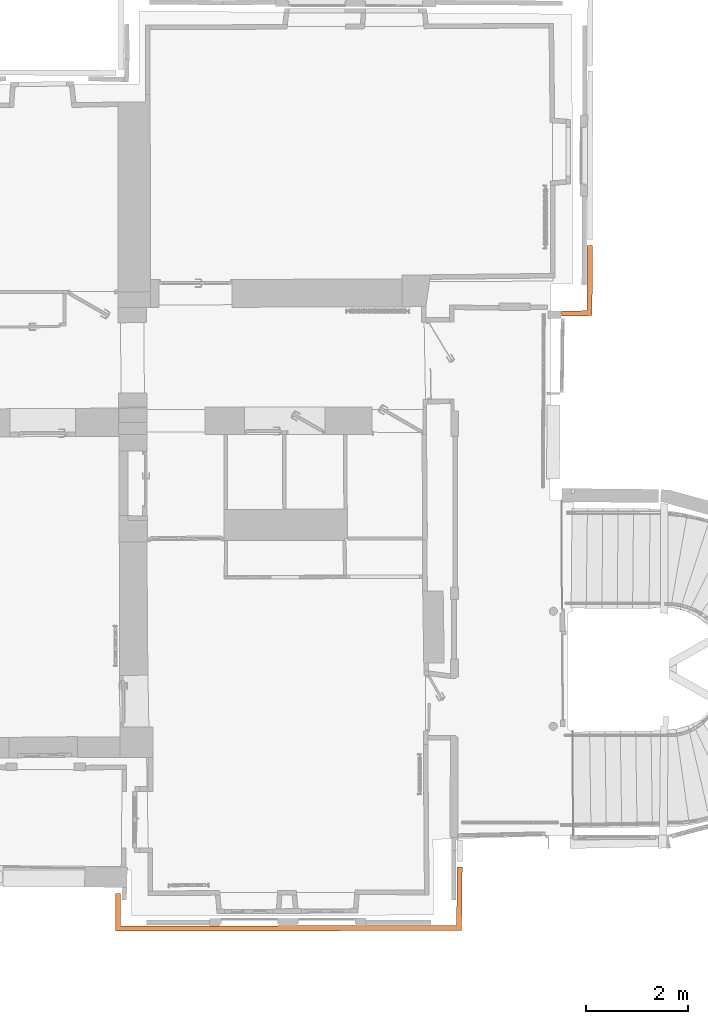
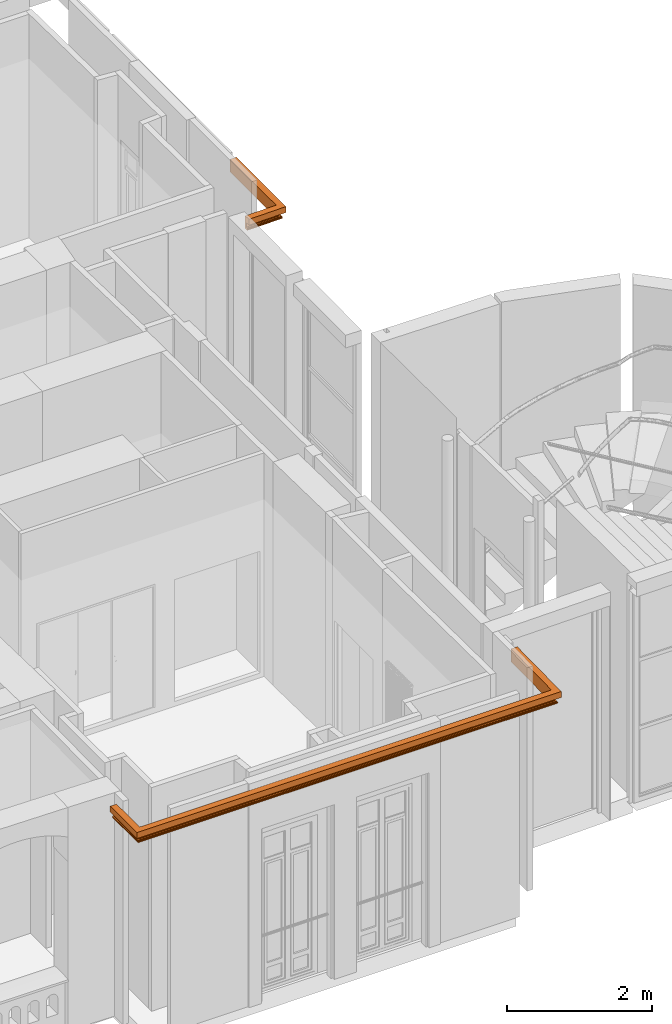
# One storey, part 64 of 66: 2 proxies.
"""IFC2X3 building model written with IfcOpenShell, lengths in centimetres."""

import ifcopenshell
import ifcopenshell.guid

model = None  # the IFC model being written
_history = None  # IfcOwnerHistory: only IFC2X3 demands one
_inside = {}  # id of a spatial element -> (the spatial element, [elements in it])
_under = {}  # id of a project, library or spatial element -> (it, [spatial elements below it])
_declared = {}  # id of a project -> (the project, [libraries it declares])
_typed = {}  # id of a type object -> (the type object, [elements of that type])
_made_of = {}  # id of a material, layer set ... -> (it, [elements and type objects made of it])


def new_model(schema):
    """Start an empty IFC model of exactly this schema.

    Asked for "IFC4X3", IfcOpenShell would pick the latest addendum, in which some entities
    have other attributes; the version numbers below select the first issue.
    IFC2X3 requires an IfcOwnerHistory on every rooted entity: one is made here for all.
    """
    global model, _history
    if schema == "IFC4X3":
        model = ifcopenshell.file(schema_version=(4, 3, 0, 0))
    else:
        model = ifcopenshell.file(schema=schema)
    _inside.clear()
    _under.clear()
    _declared.clear()
    _typed.clear()
    _made_of.clear()
    _history = None
    if model.schema == "IFC2X3":
        org = make("IfcOrganization", Name="unknown")
        user = make(
            "IfcPersonAndOrganization",
            ThePerson=make("IfcPerson", FamilyName="unknown"),
            TheOrganization=org,
        )
        app = make(
            "IfcApplication",
            ApplicationDeveloper=org,
            Version="unknown",
            ApplicationFullName="unknown",
            ApplicationIdentifier="unknown",
        )
        _history = make(
            "IfcOwnerHistory",
            OwningUser=user,
            OwningApplication=app,
            ChangeAction="ADDED",
            CreationDate=0,
        )
    return model


def make(cls, **values):
    """One entity of the class cls with the attributes given. An attribute that is None is left unset."""
    return model.create_entity(
        cls, **{name: value for name, value in values.items() if value is not None}
    )


def entity(cls, *values):
    """Any entity or typed value of the class cls, its attributes in the order of the schema. None: left unset."""
    e = model.create_entity(cls)
    for i, value in enumerate(values):
        if value is not None:
            e[i] = value
    return e


def rooted(cls, **values):
    """An entity with a GlobalId (a new one), such as an element, a storey or a relation."""
    return make(cls, GlobalId=ifcopenshell.guid.new(), OwnerHistory=_history, **values)


def si_unit(unit_type, name, prefix=None):
    """IfcSIUnit, for example si_unit("LENGTHUNIT", "METRE", prefix="MILLI")."""
    return make("IfcSIUnit", UnitType=unit_type, Prefix=prefix, Name=name)


def converted_unit(unit_type, name, factor, base, dimensions=None, offset=None):
    """IfcConversionBasedUnit, such as the inch: factor (a typed value) times the base unit."""
    return make(
        "IfcConversionBasedUnit"
        if offset is None
        else "IfcConversionBasedUnitWithOffset",
        ConversionOffset=offset,
        Dimensions=None
        if dimensions is None
        else entity("IfcDimensionalExponents", *dimensions),
        UnitType=unit_type,
        Name=name,
        ConversionFactor=make(
            "IfcMeasureWithUnit", ValueComponent=factor, UnitComponent=base
        ),
    )


def assignment(units):
    """IfcUnitAssignment: the units of a project."""
    return None if units is None else make("IfcUnitAssignment", Units=units)


def point(xyz):
    """IfcCartesianPoint."""
    return None if xyz is None else make("IfcCartesianPoint", Coordinates=xyz)


def direction(xyz):
    """IfcDirection."""
    return None if xyz is None else make("IfcDirection", DirectionRatios=xyz)


def frame(location, z_axis=None, x_axis=None):
    """IfcAxis2Placement3D, a coordinate frame: its origin and axes. An axis left out is left unset."""
    return make(
        "IfcAxis2Placement3D",
        Location=point(location),
        Axis=direction(z_axis),
        RefDirection=direction(x_axis),
    )


def origin():
    """The frame at (0, 0, 0) with its axes left unset."""
    return frame((0.0, 0.0, 0.0))


def origin_with_axes():
    """The frame at (0, 0, 0) with the z axis (0, 0, 1) and the x axis (1, 0, 0) written out."""
    return frame((0.0, 0.0, 0.0), z_axis=(0.0, 0.0, 1.0), x_axis=(1.0, 0.0, 0.0))


def place(relative_to, where):
    """IfcLocalPlacement: puts the frame where relative to a parent placement (None: the world)."""
    return make(
        "IfcLocalPlacement", PlacementRelTo=relative_to, RelativePlacement=where
    )


def context(
    kind, dimensions, precision=None, world=None, true_north=None, identifier=None
):
    """IfcGeometricRepresentationContext, for example the 3D "Model" context."""
    return make(
        "IfcGeometricRepresentationContext",
        ContextIdentifier=identifier,
        ContextType=kind,
        CoordinateSpaceDimension=dimensions,
        Precision=precision,
        WorldCoordinateSystem=world,
        TrueNorth=true_north,
    )


def subcontext(parent, identifier, kind, view, scale=None):
    """IfcGeometricRepresentationSubContext, for example "Body" below "Model"."""
    return make(
        "IfcGeometricRepresentationSubContext",
        ContextIdentifier=identifier,
        ContextType=kind,
        ParentContext=parent,
        TargetScale=scale,
        TargetView=view,
    )


def project(units=None, contexts=None):
    """IfcProject with its units and contexts."""
    return rooted(
        "IfcProject",
        Name="project",
        RepresentationContexts=contexts,
        UnitsInContext=assignment(units),
    )


def spatial(cls, under=None, at=None, **own):
    """A site, building, storey or space (cls), placed at a placement, below another one or the project."""
    s = rooted(cls, ObjectPlacement=at, **own)
    if under is not None:
        _under.setdefault(under.id(), (under, []))[1].append(s)
    return s


def faces_of(points, faces, orient=None, outer=None):
    """IfcFace entities. A face is a list of loops; a loop is a list of indices into points, from 0.

    orient and outer hold one flag for each loop. By default every Orientation is true, the
    first loop of a face is its IfcFaceOuterBound and the others are IfcFaceBound.
    """
    made = []
    for i, loops in enumerate(faces):
        bounds = []
        for j, loop in enumerate(loops):
            is_outer = j == 0 if outer is None else outer[i][j]
            bounds.append(
                make(
                    "IfcFaceOuterBound" if is_outer else "IfcFaceBound",
                    Bound=make("IfcPolyLoop", Polygon=[points[k] for k in loop]),
                    Orientation=True if orient is None else orient[i][j],
                )
            )
        made.append(make("IfcFace", Bounds=bounds))
    return made


def faceted_brep(points, faces, orient=None, outer=None, voids=None):
    """IfcFacetedBrep: a solid bounded by flat faces; with voids (closed shells), ...WithVoids."""
    shared = [point(p) for p in points]
    hull = make("IfcClosedShell", CfsFaces=faces_of(shared, faces, orient, outer))
    if voids is None:
        return make("IfcFacetedBrep", Outer=hull)
    return make(
        "IfcFacetedBrepWithVoids",
        Outer=hull,
        Voids=[
            make(cls, CfsFaces=faces_of(shared, fs, o, b)) for cls, fs, o, b in voids
        ],
    )


def shape(context_of_items, identifier, shape_type, items):
    """IfcShapeRepresentation: the items that make up one representation, for example the "Body"."""
    return make(
        "IfcShapeRepresentation",
        ContextOfItems=context_of_items,
        RepresentationIdentifier=identifier,
        RepresentationType=shape_type,
        Items=items,
    )


def material(Name=None, Category=None):
    """IfcMaterial."""
    return make("IfcMaterial", Name=Name, Category=Category)


def made_of(thing, what):
    """Note that an element or type object is made of a material, layer set ...; save() writes the relation."""
    if what is not None:
        _made_of.setdefault(what.id(), (what, []))[1].append(thing)
    return thing


def type_object(cls, material=None, **own):
    """A type object (cls), such as IfcWallType, which elements share."""
    return made_of(rooted(cls, **own), material)


def element(
    cls,
    number,
    at=None,
    inside=None,
    cuts=None,
    type_object=None,
    material=None,
    context=None,
    identifier="Body",
    shape_type=None,
    held_by="IfcProductDefinitionShape",
    body=None,
    shapes=None,
    **own,
):
    """One element of the class cls, such as IfcWall. Its Tag is "e" and its number.

    at: its placement. inside: the storey or other place that contains it. cuts: it is an
    opening in that element (IfcRelVoidsElement). A single representation is given by context,
    identifier, shape_type and body (its items); several are given by shapes. held_by: the class
    of the entity that holds the representations. save() writes the other relations.
    """
    e = rooted(cls, Tag="e%d" % number, ObjectPlacement=at, **own)
    if body is not None:
        shapes = [shape(context, identifier, shape_type, body)]
    if shapes is not None:
        e.Representation = make(held_by, Representations=shapes)
    if inside is not None:
        _inside.setdefault(inside.id(), (inside, []))[1].append(e)
    if cuts is not None:
        rooted(
            "IfcRelVoidsElement", RelatingBuildingElement=cuts, RelatedOpeningElement=e
        )
    if type_object is not None:
        _typed.setdefault(type_object.id(), (type_object, []))[1].append(e)
    return made_of(e, material)


def aggregate(whole, parts):
    """IfcRelAggregates: a whole, such as a stair, and the parts it consists of."""
    return rooted("IfcRelAggregates", RelatingObject=whole, RelatedObjects=parts)


def save(model, path):
    """Write the relations noted so far, then the file.

    IfcRelAggregates (storeys below a building ...), IfcRelContainedInSpatialStructure (elements
    in a storey), IfcRelDefinesByType, IfcRelAssociatesMaterial and IfcRelDeclares: one each for
    every whole, place, type object, material and project.
    """
    for whole, parts in _under.values():
        aggregate(whole, parts)
    for where, things in _inside.values():
        rooted(
            "IfcRelContainedInSpatialStructure",
            RelatedElements=things,
            RelatingStructure=where,
        )
    for kind, things in _typed.values():
        rooted("IfcRelDefinesByType", RelatedObjects=things, RelatingType=kind)
    for what, things in _made_of.values():
        rooted("IfcRelAssociatesMaterial", RelatedObjects=things, RelatingMaterial=what)
    for by, libraries in _declared.values():
        rooted("IfcRelDeclares", RelatingContext=by, RelatedDefinitions=libraries)
    model.write(path)


model = new_model("IFC2X3")

# Units and contexts
model_context = context("Model", 3, precision=0.0001, world=origin(), true_north=direction((0.225632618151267, 0.974212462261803, 0.0)))
body_context = subcontext(model_context, "Body", "Model", "MODEL_VIEW")
ifc_project = project(units=[si_unit("LENGTHUNIT", "METRE", prefix="CENTI"), si_unit("AREAUNIT", "SQUARE_METRE", prefix="CENTI"), si_unit("VOLUMEUNIT", "CUBIC_METRE", prefix="CENTI"), converted_unit("PLANEANGLEUNIT", "DEGREE", entity("IfcRatioMeasure", 0.0174532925), si_unit("PLANEANGLEUNIT", "RADIAN"), dimensions=[0, 0, 0, 0, 0, 0, 0])], contexts=[model_context])

# Site, building, storey
site_placement = place(None, origin_with_axes())
site = spatial("IfcSite", under=ifc_project, at=site_placement, Name="Default Site", CompositionType="ELEMENT")
building_placement = place(site_placement, origin_with_axes())
building = spatial("IfcBuilding", under=site, at=building_placement, Name="Default Building", CompositionType="ELEMENT")
storey_placement = place(building_placement, frame((0.0, 0.0, 477.795358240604), z_axis=(0.0, 0.0, 1.0), x_axis=(1.0, 0.0, 0.0)))
storey = spatial("IfcBuildingStorey", under=building, at=storey_placement, Name="Niveau 1", CompositionType="ELEMENT", Elevation=477.795358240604)

# Proxies
ifc_material = material(Name="Aluminium mat")
building_element_proxy_type = type_object("IfcBuildingElementProxyType", Name="Corniche niv1", PredefinedType="NOTDEFINED", material=ifc_material)
proxy_1_placement = place(storey_placement, origin_with_axes())
element("IfcBuildingElementProxy", 1, at=proxy_1_placement, inside=storey, type_object=building_element_proxy_type, material=ifc_material, Name="Extrusion (solide) 449943", context=body_context, shape_type="Brep", body=[
    faceted_brep([(894.890117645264, -1048.74534606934, 365.000013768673), (904.765224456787, -1058.71324539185, 365.000013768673), (906.15234375, -934.966087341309, 365.000013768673), (896.166801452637, -934.854125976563, 365.000013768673), (904.765224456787, -1058.71324539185, 354.999975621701), (906.152369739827, -934.966087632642, 354.999975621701), (906.152369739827, -934.966087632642, 365.000013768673), (897.856712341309, -1051.73978805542, 354.999975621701), (899.166584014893, -934.887790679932, 354.999975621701), (906.15234375, -934.966087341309, 354.999975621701), (897.856712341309, -1051.73978805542, 347.699980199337), (899.16656624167, -934.887790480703, 347.699980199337), (899.16656624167, -934.887790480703, 354.999975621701), (900.297737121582, -1054.20379638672, 347.699980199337), (901.634979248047, -934.915447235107, 347.699980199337), (899.166584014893, -934.887790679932, 347.699980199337), (900.65028189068, -1054.55961195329, 347.4755351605), (901.991353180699, -934.919452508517, 347.475558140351), (901.634957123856, -934.915446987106, 347.699945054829), (900.650310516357, -1054.55961227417, 347.475580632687), (900.956351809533, -1054.86860283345, 347.189962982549), (902.300913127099, -934.922885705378, 347.189936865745), (901.991390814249, -934.91945293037, 347.475606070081), (900.956344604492, -1054.86860275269, 347.189955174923), (901.205827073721, -1055.12037278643, 346.852546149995), (902.553160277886, -934.925746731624, 346.852532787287), (902.300896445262, -934.922885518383, 347.18993006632), (901.205825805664, -1055.12037277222, 346.852545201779), (901.390214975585, -1055.30652942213, 346.474864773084), (902.739594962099, -934.927844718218, 346.474877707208), (902.553154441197, -934.925746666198, 346.852534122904), (901.390266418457, -1055.30652999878, 346.474890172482), (901.503442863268, -1055.42078097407, 346.069503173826), (902.85409873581, -934.929085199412, 346.069493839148), (902.739650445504, -934.92784534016, 346.474898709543), (901.503372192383, -1055.42078018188, 346.069483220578), (901.541521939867, -1055.45921328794, 345.650057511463), (902.89260045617, -934.929561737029, 345.650058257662), (902.85402561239, -934.929084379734, 346.069479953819), (901.541519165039, -1055.45921325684, 345.650057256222), (901.503360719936, -1055.42078005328, 345.23053697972), (902.854014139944, -934.929084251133, 345.230540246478), (902.892597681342, -934.929561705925, 345.650056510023), (901.503372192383, -1055.42078018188, 345.230535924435), (901.390195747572, -1055.30652920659, 344.825148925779), (902.739579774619, -934.927844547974, 344.825140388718), (902.854028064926, -934.929084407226, 345.230545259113), (901.390266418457, -1055.30652999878, 344.825128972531), (901.205877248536, -1055.12037334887, 344.447448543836), (902.553205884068, -934.925747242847, 344.44745962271), (902.739646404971, -934.927845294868, 344.825116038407), (901.205825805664, -1055.12037277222, 344.447473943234), (900.956389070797, -1054.86860325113, 344.110126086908), (902.300940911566, -934.922886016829, 344.110151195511), (902.553159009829, -934.92574671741, 344.447487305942), (900.956344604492, -1054.86860275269, 344.110159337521), (900.650255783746, -1054.55961166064, 343.824497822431), (901.991336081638, -934.919452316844, 343.824472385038), (902.300905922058, -934.922885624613, 344.110185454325), (900.650310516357, -1054.55961227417, 343.824438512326), (900.297765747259, -1054.2037967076, 343.599993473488), (901.634985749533, -934.915447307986, 343.600028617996), (901.991381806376, -934.919452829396, 343.824415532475), (900.297737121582, -1054.20379638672, 343.600038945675), (894.890117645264, -1048.74534606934, 343.600038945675), (896.166801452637, -934.854125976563, 343.600038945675), (901.634979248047, -934.915447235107, 343.600038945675), (896.166782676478, -934.854125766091, 365.000013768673), (896.166782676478, -934.854125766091, 343.600038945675), (238.890624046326, -1049.96137619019, 365.000013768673), (228.922939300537, -1059.96608734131, 365.000013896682), (904.765224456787, -1058.71324539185, 365.000009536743), (894.890117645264, -1048.74534606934, 365.000009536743), (228.922939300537, -1059.96608734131, 365.000013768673), (228.922939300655, -1059.96608740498, 354.999975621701), (904.76522452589, -1058.7132826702, 354.999975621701), (904.765224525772, -1058.71328260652, 365.000013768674), (228.922939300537, -1059.96608734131, 354.999975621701), (235.8962059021, -1052.96688079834, 354.999975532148), (897.856712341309, -1051.73978805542, 354.999971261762), (904.765224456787, -1058.71324539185, 354.999971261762), (235.8962059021, -1052.96688079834, 354.999975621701), (235.896205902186, -1052.96688084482, 347.699980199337), (897.856712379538, -1051.7398086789, 347.699980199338), (897.856712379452, -1051.73980863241, 354.999975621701), (235.8962059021, -1052.96688079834, 347.699980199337), (233.432292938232, -1055.43994903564, 347.69998023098), (900.297737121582, -1054.20379638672, 347.699975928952), (897.856712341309, -1051.73978805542, 347.699975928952), (233.432292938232, -1055.43994903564, 347.699980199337), (233.076477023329, -1055.79708525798, 347.475557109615), (900.650310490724, -1054.5595984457, 347.475558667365), (900.297737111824, -1054.20379112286, 347.699971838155), (233.076477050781, -1055.79710006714, 347.475580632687), (232.767510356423, -1056.10720382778, 347.189921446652), (900.956344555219, -1054.86857617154, 347.189926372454), (900.650310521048, -1054.55961480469, 347.475583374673), (232.767510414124, -1056.10723495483, 347.189955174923), (232.515716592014, -1056.35997983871, 346.852561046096), (901.205825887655, -1055.12041700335, 346.852578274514), (900.95634461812, -1054.86861010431, 347.189960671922), (232.515716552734, -1056.35995864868, 346.852545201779), (232.329606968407, -1056.54676107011, 346.474879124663), (901.390266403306, -1055.30652182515, 346.474886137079), (901.205825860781, -1055.12040250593, 346.852559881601), (232.329607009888, -1056.54678344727, 346.474890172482), (232.215356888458, -1056.66144837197, 346.069492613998), (901.503372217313, -1055.42079363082, 346.069487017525), (901.390266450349, -1055.30654720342, 346.474895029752), (232.215356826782, -1056.6614151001, 346.069483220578), (232.176852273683, -1056.70006449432, 345.650059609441), (901.541519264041, -1055.45926666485, 345.650062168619), (901.503372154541, -1055.42075976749, 346.069481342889), (232.176852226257, -1056.70003890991, 345.650057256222), (232.215356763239, -1056.6613808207, 345.230539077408), (901.503372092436, -1055.42072626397, 345.230540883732), (901.541519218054, -1055.45924185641, 345.650054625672), (232.215356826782, -1056.6614151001, 345.230535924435), (232.329606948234, -1056.54675018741, 344.82513836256), (901.390266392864, -1055.30651619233, 344.825132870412), (901.503372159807, -1055.42076260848, 345.230540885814), (232.329607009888, -1056.54678344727, 344.825128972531), (232.515716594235, -1056.35998103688, 344.447462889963), (901.205825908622, -1055.12042831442, 344.447446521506), (901.39026645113, -1055.30654762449, 344.825120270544), (232.515716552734, -1056.35995864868, 344.447473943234), (232.767510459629, -1056.10725950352, 344.11014098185), (900.956344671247, -1054.86863876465, 344.110132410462), (901.205825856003, -1055.12039992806, 344.44745363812), (232.767510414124, -1056.10723495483, 344.110159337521), (233.076477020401, -1055.79708367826, 343.824456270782), (900.650310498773, -1054.5596027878, 343.82444879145), (900.956344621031, -1054.86861167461, 344.110149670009), (233.076477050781, -1055.79710006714, 343.824438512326), (233.432292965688, -1055.43996384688, 343.600015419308), (900.297737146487, -1054.20380982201, 343.600017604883), (900.65031052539, -1054.55961714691, 343.824430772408), (233.432292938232, -1055.43994903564, 343.600038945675), (238.890624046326, -1049.96137619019, 343.600038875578), (894.890117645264, -1048.74534606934, 343.600034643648), (900.297737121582, -1054.20379638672, 343.600034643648), (238.890624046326, -1049.96137619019, 343.600038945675), (238.890624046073, -1049.96137605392, 365.000013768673), (894.890117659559, -1048.7453537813, 365.000013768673), (894.890117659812, -1048.74535391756, 343.600038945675), (238.772630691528, -986.310005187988, 365.000013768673), (228.786444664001, -986.328506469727, 365.000013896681), (228.922939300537, -1059.96608734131, 365.000013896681), (228.786444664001, -986.328506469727, 365.000013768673), (228.786444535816, -986.328506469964, 354.999975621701), (228.922946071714, -1059.96608732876, 354.999975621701), (228.922946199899, -1059.96608732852, 365.000013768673), (228.786444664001, -986.328506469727, 354.999975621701), (235.772633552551, -986.315536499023, 354.999975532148), (235.772633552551, -986.315536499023, 354.999975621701), (235.772633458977, -986.315536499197, 347.699980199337), (235.896184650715, -1052.96688083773, 347.699980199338), (235.89618474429, -1052.96688083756, 354.999975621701), (235.772633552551, -986.315536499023, 347.699980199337), (233.304166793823, -986.320114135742, 347.699980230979), (233.304166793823, -986.320114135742, 347.699980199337), (232.947713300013, -986.320781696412, 347.475570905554), (233.076488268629, -1055.79710004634, 347.475562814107), (233.43229318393, -1055.43994903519, 347.699979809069), (232.947707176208, -986.320781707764, 347.475580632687), (232.638176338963, -986.321353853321, 347.18992066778), (232.767540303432, -1056.10723489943, 347.189922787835), (233.076485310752, -1055.79710005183, 347.47557168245), (232.638144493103, -986.321353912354, 347.189955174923), (232.385870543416, -986.321830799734, 346.852565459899), (232.515696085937, -1056.35995868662, 346.852560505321), (232.767507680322, -1056.1072349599, 347.189957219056), (232.385897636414, -986.321830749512, 346.852545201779), (232.199443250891, -986.322212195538, 346.474883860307), (232.329618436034, -1056.54678342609, 346.474884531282), (232.515724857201, -1056.35995863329, 346.852541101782), (232.199430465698, -986.322212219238, 346.474890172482), (232.084974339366, -986.322402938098, 346.069480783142), (232.215361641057, -1056.66141509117, 346.069481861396), (232.329605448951, -1056.54678345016, 346.474890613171), (232.084965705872, -986.322402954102, 346.069483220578), (232.046387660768, -986.322498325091, 345.65005743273), (232.17684611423, -1056.70003892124, 345.650057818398), (232.215352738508, -1056.66141510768, 346.069483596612), (232.046389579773, -986.322498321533, 345.650057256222), (232.08497631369, -986.322402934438, 345.230536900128), (232.215363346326, -1056.66141508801, 345.230536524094), (232.176848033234, -1056.70003891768, 345.650056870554), (232.084965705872, -986.322402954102, 345.230535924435), (232.199421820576, -986.322212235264, 344.825126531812), (232.329596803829, -1056.54678346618, 344.825126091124), (232.215353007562, -1056.66141510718, 345.230534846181), (232.199430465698, -986.322212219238, 344.825128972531), (232.385884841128, -986.32183077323, 344.447467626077), (232.515712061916, -1056.35995865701, 344.447471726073), (232.329605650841, -1056.54678344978, 344.825128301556), (232.385897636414, -986.321830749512, 344.447473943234), (232.638125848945, -986.321353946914, 344.110145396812), (232.767489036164, -1056.10723499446, 344.110143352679), (232.515723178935, -1056.3599586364, 344.447478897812), (232.638144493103, -986.321353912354, 344.110159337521), (232.947722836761, -986.320781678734, 343.824455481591), (233.0765009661, -1055.79710002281, 343.824464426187), (232.767508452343, -1056.10723495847, 344.1101572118), (232.947707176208, -986.320781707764, 343.824438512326), (233.304160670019, -986.320114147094, 343.600029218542), (233.432287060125, -1055.43994904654, 343.600029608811), (233.076482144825, -1055.7971000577, 343.824446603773), (233.304166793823, -986.320114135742, 343.600038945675), (238.772630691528, -986.310005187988, 343.600038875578), (238.772630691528, -986.310005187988, 343.600038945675), (238.772630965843, -986.31000518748, 365.000013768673), (238.89062112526, -1049.9613761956, 365.000013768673), (238.890620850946, -1049.96137619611, 343.600038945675), (906.152344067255, -934.966059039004, 365.000013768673), (906.152344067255, -934.966059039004, 354.999975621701), (899.16658444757, -934.887752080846, 354.999975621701), (899.16658444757, -934.887752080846, 347.699980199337), (901.634979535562, -934.915421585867, 347.699980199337), (901.991367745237, -934.919416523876, 347.475580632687), (902.30093001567, -934.922886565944, 347.189955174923), (902.553177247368, -934.925714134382, 346.852545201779), (902.739620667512, -934.927804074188, 346.474890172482), (902.854061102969, -934.929086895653, 346.069483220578), (902.89259004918, -934.929518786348, 345.650057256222), (902.854061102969, -934.929086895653, 345.230535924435), (902.739620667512, -934.927804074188, 344.825128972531), (902.553177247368, -934.925714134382, 344.447473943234), (902.30093001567, -934.922886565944, 344.110159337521), (901.991367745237, -934.919416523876, 343.824438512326), (901.634979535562, -934.915421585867, 343.600038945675), (233.304166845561, -986.32014204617, 343.600038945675), (232.947707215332, -986.320802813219, 343.824438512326), (232.638144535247, -986.321376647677, 344.110159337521), (232.385897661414, -986.321844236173, 344.447473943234), (232.199430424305, -986.322189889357, 344.825128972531), (232.084965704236, -986.322402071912, 345.230535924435), (232.04638953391, -986.322473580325, 345.650057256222), (232.084965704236, -986.322402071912, 346.069483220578), (232.199430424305, -986.322189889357, 346.474890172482), (232.385897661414, -986.321844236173, 346.852545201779), (232.638144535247, -986.321376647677, 347.189955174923), (232.947707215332, -986.320802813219, 347.475580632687), (233.304166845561, -986.32014204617, 347.699980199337), (235.772633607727, -986.315566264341, 347.699980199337), (235.772633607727, -986.315566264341, 354.999975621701), (228.786444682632, -986.328516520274, 354.999975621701), (228.786444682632, -986.328516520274, 365.000013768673)], [[[0, 1, 2, 3]], [[1, 4, 5, 6]], [[4, 7, 8, 9]], [[7, 10, 11, 12]], [[10, 13, 14, 15]], [[13, 16, 17, 18]], [[19, 20, 21, 22]], [[23, 24, 25, 26]], [[27, 28, 29, 30]], [[31, 32, 33, 34]], [[35, 36, 37, 38]], [[39, 40, 41, 42]], [[43, 44, 45, 46]], [[47, 48, 49, 50]], [[51, 52, 53, 54]], [[55, 56, 57, 58]], [[59, 60, 61, 62]], [[63, 64, 65, 66]], [[64, 0, 67, 68]], [[69, 70, 71, 72]], [[73, 74, 75, 76]], [[77, 78, 79, 80]], [[81, 82, 83, 84]], [[85, 86, 87, 88]], [[89, 90, 91, 92]], [[93, 94, 95, 96]], [[97, 98, 99, 100]], [[101, 102, 103, 104]], [[105, 106, 107, 108]], [[109, 110, 111, 112]], [[113, 114, 115, 116]], [[117, 118, 119, 120]], [[121, 122, 123, 124]], [[125, 126, 127, 128]], [[129, 130, 131, 132]], [[133, 134, 135, 136]], [[137, 138, 139, 140]], [[141, 142, 143, 144]], [[145, 146, 147, 69]], [[148, 149, 150, 151]], [[152, 153, 78, 77]], [[154, 155, 156, 157]], [[158, 159, 86, 85]], [[160, 161, 162, 163]], [[164, 165, 166, 167]], [[168, 169, 170, 171]], [[172, 173, 174, 175]], [[176, 177, 178, 179]], [[180, 181, 182, 183]], [[184, 185, 186, 187]], [[188, 189, 190, 191]], [[192, 193, 194, 195]], [[196, 197, 198, 199]], [[200, 201, 202, 203]], [[204, 205, 206, 207]], [[208, 209, 138, 137]], [[210, 211, 212, 213]], [[3, 214, 215, 216, 217, 218, 219, 220, 221, 222, 223, 224, 225, 226, 227, 228, 229, 230, 65]], [[210, 231, 232, 233, 234, 235, 236, 237, 238, 239, 240, 241, 242, 243, 244, 245, 246, 247, 145]]]),
])
proxy_2_placement = place(storey_placement, origin_with_axes())
element("IfcBuildingElementProxy", 2, at=proxy_2_placement, inside=storey, type_object=building_element_proxy_type, material=ifc_material, Name="Extrusion (solide) 449953", context=body_context, shape_type="Brep", body=[
    faceted_brep([(1149.84350204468, 151.600062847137, 363.604597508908), (1159.81693267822, 141.796720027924, 363.604597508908), (1159.99612808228, 278.887867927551, 363.604597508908), (1150.00991821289, 278.900933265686, 363.604597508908), (1159.81693267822, 141.796720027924, 353.604654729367), (1159.9961351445, 278.88786791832, 353.604654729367), (1159.9961351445, 278.88786791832, 363.604597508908), (1152.83966064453, 148.654997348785, 353.604654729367), (1153.00989151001, 278.897023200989, 353.604654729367), (1159.99612808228, 278.887867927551, 353.604654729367), (1152.83966064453, 148.654997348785, 346.304659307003), (1153.00991009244, 278.897023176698, 346.304659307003), (1153.00991009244, 278.897023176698, 353.604654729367), (1155.30500411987, 146.231722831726, 346.304659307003), (1155.4783821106, 278.893780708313, 346.304659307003), (1153.00989151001, 278.897023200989, 346.304659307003), (1155.66100361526, 145.881772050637, 346.080248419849), (1155.83486266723, 278.893327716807, 346.08025512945), (1155.47839200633, 278.893780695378, 346.304675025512), (1155.66101074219, 145.881772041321, 346.080259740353), (1155.97020074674, 145.577895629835, 345.794548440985), (1156.14445089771, 278.892922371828, 345.794563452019), (1155.83487242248, 278.893327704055, 346.080267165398), (1155.97019195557, 145.577895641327, 345.794538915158), (1156.22207617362, 145.330262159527, 345.457238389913), (1156.39667592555, 278.892588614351, 345.457224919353), (1156.14444757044, 278.892922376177, 345.794553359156), (1156.22205734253, 145.330262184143, 345.457224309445), (1156.40831556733, 145.147204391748, 345.079476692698), (1156.58314026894, 278.892350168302, 345.079484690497), (1156.39665252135, 278.892588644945, 345.457213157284), (1156.40830993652, 145.147204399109, 345.079473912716), (1156.52262146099, 145.034849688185, 344.674057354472), (1156.69759148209, 278.892183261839, 344.674076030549), (1156.583137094, 278.892350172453, 345.079479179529), (1156.52265548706, 145.034849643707, 344.674066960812), (1156.56118417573, 144.996976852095, 344.254641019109), (1156.73620870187, 278.892135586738, 344.254643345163), (1156.69763018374, 278.892183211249, 344.674073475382), (1156.56118392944, 144.996976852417, 344.254640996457), (1156.52265524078, 145.034849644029, 343.835215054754), (1156.69762993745, 278.892183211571, 343.835208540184), (1156.73620845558, 278.89213558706, 344.254638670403), (1156.52265548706, 145.034849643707, 343.835215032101), (1156.40834396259, 145.147204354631, 343.429798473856), (1156.58317112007, 278.892350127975, 343.429793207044), (1156.69762550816, 278.892183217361, 343.835196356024), (1156.40830993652, 145.147204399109, 343.429808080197), (1156.22205171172, 145.330262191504, 343.05206046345), (1156.39664689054, 278.892588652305, 343.052071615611), (1156.58313463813, 278.892350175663, 343.429800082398), (1156.22205734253, 145.330262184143, 343.052057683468), (1155.97017312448, 145.577895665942, 342.714757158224), (1156.14442873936, 278.892922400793, 342.714742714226), (1156.39665709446, 278.892588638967, 343.052071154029), (1155.97019195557, 145.577895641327, 342.714743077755), (1155.66100195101, 145.881772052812, 342.429031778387), (1155.8348636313, 278.893327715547, 342.429024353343), (1156.14444210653, 278.892922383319, 342.714728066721), (1155.66101074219, 145.881772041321, 342.42902225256), (1155.3050112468, 146.23172282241, 342.204611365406), (1155.47839913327, 278.893780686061, 342.204595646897), (1155.83486979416, 278.893327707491, 342.429015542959), (1155.30500411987, 146.231722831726, 342.20462268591), (1149.84350204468, 151.600062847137, 342.204622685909), (1150.00991821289, 278.900933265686, 342.204622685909), (1155.4783821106, 278.893780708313, 342.204622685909), (1150.00990688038, 278.9009332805, 363.604597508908), (1150.00990688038, 278.9009332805, 342.20462268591), (1100.10538101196, 150.679564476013, 363.604692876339), (1100.29020309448, 140.695059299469, 363.604693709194), (1159.81693267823, 141.796720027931, 363.604688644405), (1149.84350204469, 151.600062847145, 363.604688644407), (1100.29020309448, 140.695059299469, 363.604692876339), (1100.29020310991, 140.695058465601, 353.604654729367), (1159.81693269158, 141.796719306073, 353.604654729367), (1159.81693267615, 141.796720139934, 363.604597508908), (1100.29020309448, 140.695059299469, 353.604654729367), (1100.16088485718, 147.680079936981, 353.604654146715), (1152.83966064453, 148.654997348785, 353.604649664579), (1159.81693267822, 141.796720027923, 353.604649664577), (1100.16088485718, 147.680079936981, 353.604654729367), (1100.16088486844, 147.68007932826, 346.304659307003), (1152.83966050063, 148.655005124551, 346.304659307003), (1152.83966048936, 148.655005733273, 353.604654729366), (1100.16088485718, 147.680079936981, 346.304659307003), (1100.20656585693, 145.212018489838, 346.304659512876), (1155.30500411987, 146.231722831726, 346.304654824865), (1152.83966064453, 148.654997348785, 346.304654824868), (1100.20656585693, 145.212018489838, 346.304659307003), (1100.21324138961, 144.855616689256, 346.080243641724), (1155.66101048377, 145.881786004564, 346.080237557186), (1155.30500406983, 146.231725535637, 346.304655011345), (1100.21324157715, 144.855606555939, 346.080259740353), (1100.21896397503, 144.5460844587, 345.794559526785), (1155.97019230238, 145.577876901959, 345.794559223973), (1155.66101064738, 145.881777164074, 346.080254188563), (1100.21896362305, 144.546103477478, 345.794538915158), (1100.22363634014, 144.29391981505, 345.457212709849), (1156.22205695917, 145.330282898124, 345.457208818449), (1155.97019196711, 145.577895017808, 345.794539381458), (1100.2236366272, 144.293904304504, 345.457224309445), (1100.22707020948, 144.107441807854, 345.079483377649), (1156.40831021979, 145.147189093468, 345.079481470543), (1156.22205723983, 145.330267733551, 345.457221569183), (1100.22706985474, 144.107460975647, 345.079473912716), (1100.22916806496, 143.993025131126, 344.674068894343), (1156.52265549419, 145.034849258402, 344.674067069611), (1156.40830987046, 145.147207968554, 345.079472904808), (1100.22916793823, 143.993031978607, 344.674066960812), (1100.22983544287, 143.954459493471, 344.254640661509), (1156.56118380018, 144.99698383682, 344.254640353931), (1156.52265537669, 145.034855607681, 344.67406641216), (1100.22983551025, 143.954455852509, 344.254640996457), (1100.22916800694, 143.993028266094, 343.835214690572), (1156.52265546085, 145.034851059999, 343.835215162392), (1156.56118388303, 144.996979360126, 344.254641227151), (1100.22916793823, 143.993031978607, 343.835215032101), (1100.22706972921, 144.107467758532, 343.429809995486), (1156.40830979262, 145.14721217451, 343.429810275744), (1156.52265541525, 145.034853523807, 343.835216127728), (1100.22706985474, 144.107460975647, 343.429808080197), (1100.22363627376, 144.293923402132, 343.052067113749), (1156.22205695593, 145.330283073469, 343.052067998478), (1156.40830993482, 145.147204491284, 343.429808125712), (1100.2236366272, 144.293904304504, 343.052057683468), (1100.21896391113, 144.546087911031, 342.714731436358), (1155.97019233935, 145.577874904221, 342.714727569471), (1156.22205733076, 145.330262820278, 343.052058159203), (1100.21896362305, 144.546103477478, 342.714743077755), (1100.21324122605, 144.85562552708, 342.429042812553), (1155.66101038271, 145.881791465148, 342.429043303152), (1155.9701920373, 145.57789122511, 342.714738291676), (1100.21324157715, 144.855606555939, 342.42902225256), (1100.20656604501, 145.212008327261, 342.204606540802), (1155.30500433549, 146.231711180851, 342.204604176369), (1155.66101074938, 145.881771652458, 342.429021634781), (1100.20656585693, 145.212018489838, 342.20462268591), (1100.10538101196, 150.679564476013, 342.204622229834), (1149.84350204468, 151.600062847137, 342.204617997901), (1155.30500411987, 146.231722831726, 342.204617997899), (1100.10538101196, 150.679564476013, 342.20462268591), (1100.10538097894, 150.67956626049, 363.604692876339), (1149.84350192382, 151.600069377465, 363.604597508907), (1149.84350195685, 151.600067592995, 342.204622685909), (1159.99612809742, 278.887879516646, 363.604597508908), (1159.99612809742, 278.887879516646, 353.604654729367), (1153.00989149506, 278.89701176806, 353.604654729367), (1153.00989149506, 278.89701176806, 346.304659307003), (1155.47838211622, 278.89378501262, 346.304659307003), (1155.83486555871, 278.893319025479, 346.080259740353), (1156.14442824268, 278.892914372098, 345.794538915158), (1156.39667510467, 278.892584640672, 345.457224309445), (1156.5831184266, 278.892340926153, 345.079473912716), (1156.69755936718, 278.892191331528, 344.674066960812), (1156.73618317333, 278.892140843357, 344.254640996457), (1156.69755936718, 278.892191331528, 343.835215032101), (1156.5831184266, 278.892340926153, 343.429808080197), (1156.39667510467, 278.892584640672, 343.052057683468), (1156.14442824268, 278.892914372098, 342.714743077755), (1155.83486555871, 278.893319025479, 342.42902225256), (1155.47838211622, 278.89378501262, 342.20462268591), (1150.00991821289, 278.900933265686, 342.20462268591), (1100.20656885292, 145.212018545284, 342.204622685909), (1100.21316501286, 144.855605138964, 342.429022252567), (1100.21889300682, 144.546102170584, 342.714743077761), (1100.22356048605, 144.293902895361, 343.052057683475), (1100.22701101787, 144.107459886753, 343.429808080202), (1100.22912878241, 143.993031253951, 343.835215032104), (1100.22984273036, 143.954455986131, 344.254640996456), (1100.22912885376, 143.993031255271, 344.674066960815), (1100.22701115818, 144.10745988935, 345.079473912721), (1100.22356069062, 144.293902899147, 345.457224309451), (1100.21889326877, 144.546102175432, 345.794538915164), (1100.21316532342, 144.855605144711, 346.08025974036), (1100.20656920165, 145.212018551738, 346.304659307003), (1100.16089280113, 147.680080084, 346.304659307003), (1100.16089342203, 147.680080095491, 353.604654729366), (1100.29016517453, 140.695058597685, 353.60465472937), (1100.29016602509, 140.695058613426, 363.604692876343), (1100.10538283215, 150.679564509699, 363.604692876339)], [[[0, 1, 2, 3]], [[1, 4, 5, 6]], [[4, 7, 8, 9]], [[7, 10, 11, 12]], [[10, 13, 14, 15]], [[13, 16, 17, 18]], [[19, 20, 21, 22]], [[23, 24, 25, 26]], [[27, 28, 29, 30]], [[31, 32, 33, 34]], [[35, 36, 37, 38]], [[39, 40, 41, 42]], [[43, 44, 45, 46]], [[47, 48, 49, 50]], [[51, 52, 53, 54]], [[55, 56, 57, 58]], [[59, 60, 61, 62]], [[63, 64, 65, 66]], [[64, 0, 67, 68]], [[69, 70, 71, 72]], [[73, 74, 75, 76]], [[77, 78, 79, 80]], [[81, 82, 83, 84]], [[85, 86, 87, 88]], [[89, 90, 91, 92]], [[93, 94, 95, 96]], [[97, 98, 99, 100]], [[101, 102, 103, 104]], [[105, 106, 107, 108]], [[109, 110, 111, 112]], [[113, 114, 115, 116]], [[117, 118, 119, 120]], [[121, 122, 123, 124]], [[125, 126, 127, 128]], [[129, 130, 131, 132]], [[133, 134, 135, 136]], [[137, 138, 139, 140]], [[141, 142, 143, 144]], [[3, 145, 146, 147, 148, 149, 150, 151, 152, 153, 154, 155, 156, 157, 158, 159, 160, 161, 162]], [[141, 163, 164, 165, 166, 167, 168, 169, 170, 171, 172, 173, 174, 175, 176, 177, 178, 179, 180]]]),
])

save(model, "model.ifc")
